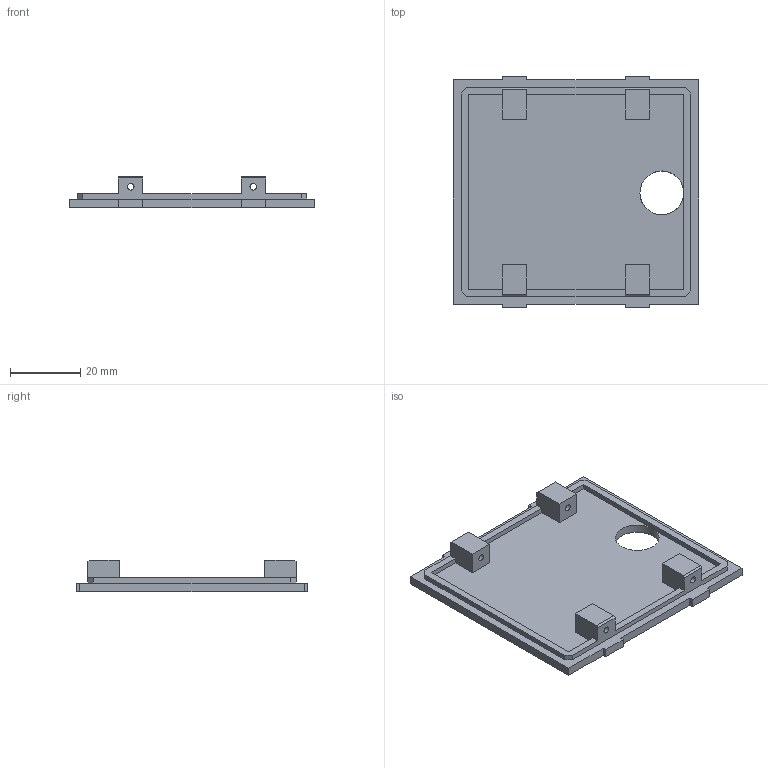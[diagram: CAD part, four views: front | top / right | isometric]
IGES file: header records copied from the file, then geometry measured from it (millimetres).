
Global section: file name: DeckeNeul; native system: Autodesk Inventor 2020; preprocessor: unknown; author: Niklas; date: 20200907.165830; units: millimetre
Bounding box: 70 x 66 x 9 mm (x, y, z)
Volume: 12659.5 mm3; surface area: 11487 mm2
Topology: 1 solids, 1 shells, 146 faces, 418 edges, 281 vertices
Faces by surface type: bspline 146
